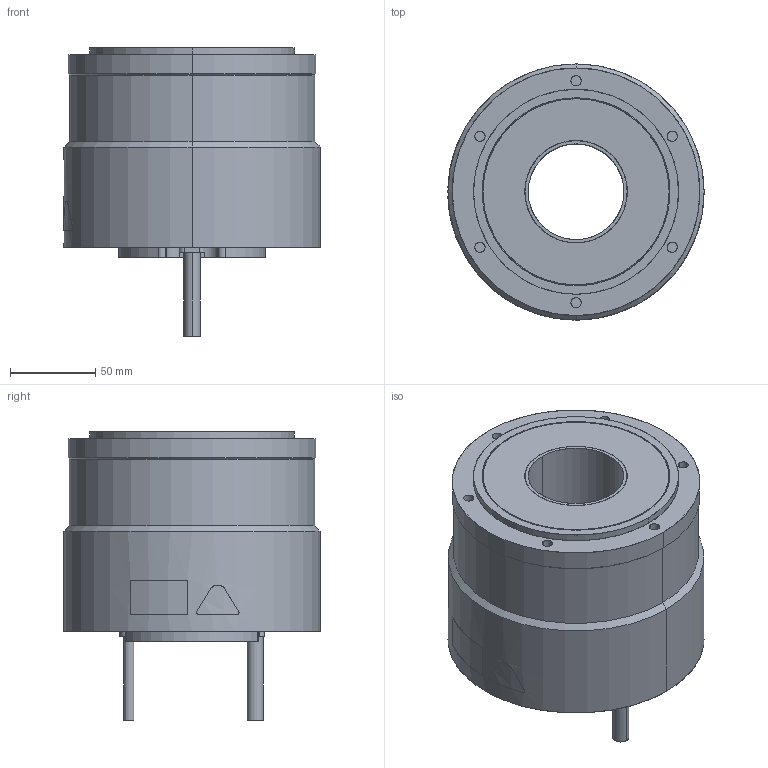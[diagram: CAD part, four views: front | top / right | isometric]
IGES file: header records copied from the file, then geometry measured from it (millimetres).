
Start section: SolidWorks IGES file using analytic representation for surfaces
Bounding box: 150.06 x 150 x 169 mm (x, y, z)
Surface area: 116799.5 mm2 (no closed solid volume)
Topology: 0 solids, 0 shells, 170 faces, 3730 edges, 3730 vertices
Faces by surface type: revolution 109, bspline 61
